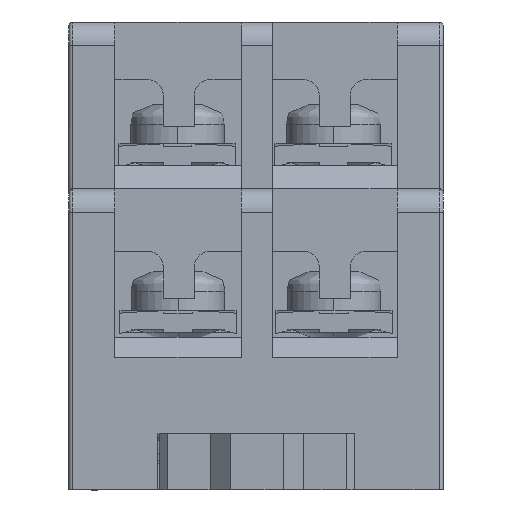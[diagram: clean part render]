
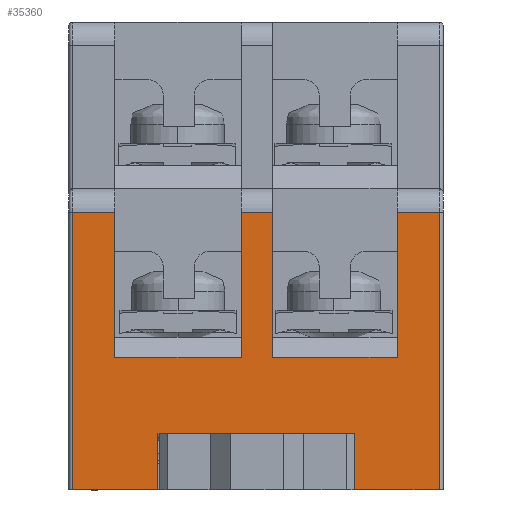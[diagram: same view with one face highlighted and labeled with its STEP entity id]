
A CAD part, left-side view. The second image highlights one B-rep face of the part: STEP entity #35360.
In plain terms, the highlighted planar face has unit normal (-1, 0, 0).
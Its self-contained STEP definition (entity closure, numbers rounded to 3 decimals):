
#369 = CARTESIAN_POINT ( 'NONE',  ( -36.43, -5.933, 17.8 ) ) ;
#390 = LINE ( 'NONE', #4026, #43578 ) ;
#490 = ORIENTED_EDGE ( 'NONE', *, *, #15266, .F. ) ;
#1147 = ORIENTED_EDGE ( 'NONE', *, *, #23819, .F. ) ;
#1600 = VERTEX_POINT ( 'NONE', #45265 ) ;
#2007 = DIRECTION ( 'NONE',  ( 0., 0., -1. ) ) ;
#2075 = LINE ( 'NONE', #50649, #26235 ) ;
#2350 = ORIENTED_EDGE ( 'NONE', *, *, #31432, .F. ) ;
#2529 = LINE ( 'NONE', #25438, #22895 ) ;
#2846 = CARTESIAN_POINT ( 'NONE',  ( -36.43, -8.536, 3.6 ) ) ;
#3363 = ORIENTED_EDGE ( 'NONE', *, *, #26145, .T. ) ;
#3754 = EDGE_CURVE ( 'NONE', #10985, #30263, #30832, .T. ) ;
#4026 = CARTESIAN_POINT ( 'NONE',  ( -36.43, 4.167, 19.3 ) ) ;
#4103 = CARTESIAN_POINT ( 'NONE',  ( -36.43, 5.617, 0. ) ) ;
#4442 = EDGE_CURVE ( 'NONE', #47688, #1600, #18656, .T. ) ;
#4549 = CARTESIAN_POINT ( 'NONE',  ( -36.43, 1.417, 3.6 ) ) ;
#4649 = PLANE ( 'NONE',  #45435 ) ;
#4835 = ORIENTED_EDGE ( 'NONE', *, *, #5230, .T. ) ;
#5230 = EDGE_CURVE ( 'NONE', #47688, #35331, #12012, .T. ) ;
#6273 = DIRECTION ( 'NONE',  ( 0., -1., 0. ) ) ;
#7305 = CARTESIAN_POINT ( 'NONE',  ( -36.43, 4.167, 8.5 ) ) ;
#7963 = CARTESIAN_POINT ( 'NONE',  ( -36.43, 1.417, 3.6 ) ) ;
#8036 = ORIENTED_EDGE ( 'NONE', *, *, #46110, .T. ) ;
#8353 = VERTEX_POINT ( 'NONE', #13811 ) ;
#8585 = ORIENTED_EDGE ( 'NONE', *, *, #27939, .T. ) ;
#8656 = VECTOR ( 'NONE', #33804, 1000. ) ;
#8686 = ORIENTED_EDGE ( 'NONE', *, *, #4442, .F. ) ;
#9629 = LINE ( 'NONE', #16499, #28738 ) ;
#9929 = CARTESIAN_POINT ( 'NONE',  ( -36.43, -3.933, 10.1 ) ) ;
#10274 = DIRECTION ( 'NONE',  ( 0., 0., 1. ) ) ;
#10335 = CARTESIAN_POINT ( 'NONE',  ( -36.43, -16.633, 0. ) ) ;
#10463 = VECTOR ( 'NONE', #19745, 1000. ) ;
#10665 = CARTESIAN_POINT ( 'NONE',  ( -36.43, 1.417, 3.6 ) ) ;
#10674 = VECTOR ( 'NONE', #46357, 1000. ) ;
#10883 = DIRECTION ( 'NONE',  ( 0., 1., 0. ) ) ;
#10985 = VERTEX_POINT ( 'NONE', #16968 ) ;
#12003 = VERTEX_POINT ( 'NONE', #15959 ) ;
#12012 = LINE ( 'NONE', #12335, #22887 ) ;
#12335 = CARTESIAN_POINT ( 'NONE',  ( -36.43, 5.617, 3.6 ) ) ;
#12729 = LINE ( 'NONE', #7963, #52133 ) ;
#13801 = VERTEX_POINT ( 'NONE', #369 ) ;
#13811 = CARTESIAN_POINT ( 'NONE',  ( -36.43, 6.867, 0. ) ) ;
#14010 = DIRECTION ( 'NONE',  ( 0., 0., 1. ) ) ;
#14168 = EDGE_CURVE ( 'NONE', #1600, #44680, #38548, .T. ) ;
#14209 = VERTEX_POINT ( 'NONE', #24126 ) ;
#14235 = CARTESIAN_POINT ( 'NONE',  ( -36.43, -5.933, 8.5 ) ) ;
#15266 = EDGE_CURVE ( 'NONE', #10985, #35331, #47397, .T. ) ;
#15299 = ORIENTED_EDGE ( 'NONE', *, *, #19193, .F. ) ;
#15378 = ORIENTED_EDGE ( 'NONE', *, *, #46896, .F. ) ;
#15959 = CARTESIAN_POINT ( 'NONE',  ( -36.43, 6.867, 17.8 ) ) ;
#15988 = VECTOR ( 'NONE', #17022, 1000. ) ;
#16058 = VECTOR ( 'NONE', #43169, 1000. ) ;
#16121 = ORIENTED_EDGE ( 'NONE', *, *, #41368, .T. ) ;
#16499 = CARTESIAN_POINT ( 'NONE',  ( -36.43, -16.633, 17.8 ) ) ;
#16890 = DIRECTION ( 'NONE',  ( 1., 0., 0. ) ) ;
#16968 = CARTESIAN_POINT ( 'NONE',  ( -36.43, -11.186, 0. ) ) ;
#17022 = DIRECTION ( 'NONE',  ( 0., 1., 0. ) ) ;
#18656 = LINE ( 'NONE', #10665, #16058 ) ;
#18701 = VECTOR ( 'NONE', #48688, 1000. ) ;
#18999 = CARTESIAN_POINT ( 'NONE',  ( -36.43, 1.314, 3.6 ) ) ;
#19079 = VECTOR ( 'NONE', #40866, 1000. ) ;
#19193 = EDGE_CURVE ( 'NONE', #44680, #39845, #12729, .T. ) ;
#19664 = CARTESIAN_POINT ( 'NONE',  ( -36.43, 1.417, 3.6 ) ) ;
#19745 = DIRECTION ( 'NONE',  ( 0., 1., 0. ) ) ;
#19824 = ORIENTED_EDGE ( 'NONE', *, *, #39294, .T. ) ;
#19961 = EDGE_CURVE ( 'NONE', #36032, #30216, #2529, .T. ) ;
#20001 = LINE ( 'NONE', #48132, #10463 ) ;
#20571 = VERTEX_POINT ( 'NONE', #45072 ) ;
#20633 = DIRECTION ( 'NONE',  ( 0., 0., 1. ) ) ;
#21311 = VECTOR ( 'NONE', #36068, 1000. ) ;
#22806 = FACE_OUTER_BOUND ( 'NONE', #45276, .T. ) ;
#22887 = VECTOR ( 'NONE', #36712, 1000. ) ;
#22895 = VECTOR ( 'NONE', #29542, 1000. ) ;
#23337 = VECTOR ( 'NONE', #10883, 1000. ) ;
#23819 = EDGE_CURVE ( 'NONE', #36032, #14209, #44359, .T. ) ;
#23821 = CARTESIAN_POINT ( 'NONE',  ( -36.43, 1.417, 0. ) ) ;
#24126 = CARTESIAN_POINT ( 'NONE',  ( -36.43, -13.933, 17.8 ) ) ;
#25073 = CARTESIAN_POINT ( 'NONE',  ( -36.43, 1.417, 0. ) ) ;
#25438 = CARTESIAN_POINT ( 'NONE',  ( -36.43, 5.617, 8.5 ) ) ;
#26145 = EDGE_CURVE ( 'NONE', #42868, #51009, #20001, .T. ) ;
#26235 = VECTOR ( 'NONE', #2007, 1000. ) ;
#26378 = CARTESIAN_POINT ( 'NONE',  ( -36.43, 5.617, 0. ) ) ;
#27364 = LINE ( 'NONE', #44954, #19079 ) ;
#27866 = DIRECTION ( 'NONE',  ( 0., 1., 0. ) ) ;
#27939 = EDGE_CURVE ( 'NONE', #13801, #43905, #37668, .T. ) ;
#28738 = VECTOR ( 'NONE', #20633, 1000. ) ;
#29542 = DIRECTION ( 'NONE',  ( 0., 1., 0. ) ) ;
#29744 = CARTESIAN_POINT ( 'NONE',  ( -36.43, 5.617, 17.8 ) ) ;
#29757 = CARTESIAN_POINT ( 'NONE',  ( -36.43, -3.933, 17.8 ) ) ;
#30216 = VERTEX_POINT ( 'NONE', #14235 ) ;
#30263 = VERTEX_POINT ( 'NONE', #10335 ) ;
#30832 = LINE ( 'NONE', #4103, #18701 ) ;
#31198 = ORIENTED_EDGE ( 'NONE', *, *, #36642, .F. ) ;
#31432 = EDGE_CURVE ( 'NONE', #13801, #30216, #2075, .T. ) ;
#32104 = LINE ( 'NONE', #23821, #21311 ) ;
#33804 = DIRECTION ( 'NONE',  ( 0., 1., 0. ) ) ;
#34307 = CARTESIAN_POINT ( 'NONE',  ( -36.43, -13.933, 10.1 ) ) ;
#35331 = VERTEX_POINT ( 'NONE', #41079 ) ;
#35360 = ADVANCED_FACE ( 'NONE', ( #22806 ), #4649, .F. ) ;
#36032 = VERTEX_POINT ( 'NONE', #50853 ) ;
#36068 = DIRECTION ( 'NONE',  ( 0., 0., -1. ) ) ;
#36331 = EDGE_CURVE ( 'NONE', #20571, #12003, #50638, .T. ) ;
#36612 = VECTOR ( 'NONE', #10274, 1000. ) ;
#36642 = EDGE_CURVE ( 'NONE', #39845, #41456, #32104, .T. ) ;
#36712 = DIRECTION ( 'NONE',  ( 0., -1., 0. ) ) ;
#37057 = VECTOR ( 'NONE', #14010, 1000. ) ;
#37325 = CARTESIAN_POINT ( 'NONE',  ( -36.43, 5.617, 17.8 ) ) ;
#37668 = LINE ( 'NONE', #37325, #15988 ) ;
#38356 = EDGE_CURVE ( 'NONE', #42868, #43905, #47832, .T. ) ;
#38548 = LINE ( 'NONE', #19664, #39797 ) ;
#38553 = CARTESIAN_POINT ( 'NONE',  ( -36.43, -11.186, 30. ) ) ;
#38843 = ORIENTED_EDGE ( 'NONE', *, *, #36331, .T. ) ;
#38999 = DIRECTION ( 'NONE',  ( 0., 0., -1. ) ) ;
#39250 = CARTESIAN_POINT ( 'NONE',  ( -36.43, -3.933, 8.5 ) ) ;
#39294 = EDGE_CURVE ( 'NONE', #30263, #47146, #9629, .T. ) ;
#39333 = CARTESIAN_POINT ( 'NONE',  ( -36.43, 5.617, 17.8 ) ) ;
#39797 = VECTOR ( 'NONE', #27866, 1000. ) ;
#39845 = VERTEX_POINT ( 'NONE', #4549 ) ;
#40349 = CARTESIAN_POINT ( 'NONE',  ( -36.43, -16.633, 17.8 ) ) ;
#40465 = DIRECTION ( 'NONE',  ( 0., 1., 0. ) ) ;
#40866 = DIRECTION ( 'NONE',  ( 0., 0., -1. ) ) ;
#41079 = CARTESIAN_POINT ( 'NONE',  ( -36.43, -11.186, 3.6 ) ) ;
#41258 = CARTESIAN_POINT ( 'NONE',  ( -36.43, 5.617, 30. ) ) ;
#41368 = EDGE_CURVE ( 'NONE', #12003, #8353, #27364, .T. ) ;
#41456 = VERTEX_POINT ( 'NONE', #25073 ) ;
#42868 = VERTEX_POINT ( 'NONE', #39250 ) ;
#43169 = DIRECTION ( 'NONE',  ( 0., 1., 0. ) ) ;
#43190 = ORIENTED_EDGE ( 'NONE', *, *, #38356, .F. ) ;
#43578 = VECTOR ( 'NONE', #38999, 1000. ) ;
#43905 = VERTEX_POINT ( 'NONE', #29757 ) ;
#44112 = ORIENTED_EDGE ( 'NONE', *, *, #46202, .T. ) ;
#44359 = LINE ( 'NONE', #34307, #10674 ) ;
#44680 = VERTEX_POINT ( 'NONE', #18999 ) ;
#44954 = CARTESIAN_POINT ( 'NONE',  ( -36.43, 6.867, 0. ) ) ;
#45072 = CARTESIAN_POINT ( 'NONE',  ( -36.43, 4.167, 17.8 ) ) ;
#45167 = ORIENTED_EDGE ( 'NONE', *, *, #3754, .T. ) ;
#45265 = CARTESIAN_POINT ( 'NONE',  ( -36.43, -1.336, 3.6 ) ) ;
#45276 = EDGE_LOOP ( 'NONE', ( #490, #45167, #19824, #44112, #1147, #48720, #2350, #8585, #43190, #3363, #15378, #38843, #16121, #8036, #31198, #15299, #50441, #8686, #4835 ) ) ;
#45344 = DIRECTION ( 'NONE',  ( 0., 1., 0. ) ) ;
#45435 = AXIS2_PLACEMENT_3D ( 'NONE', #41258, #16890, #45344 ) ;
#46110 = EDGE_CURVE ( 'NONE', #8353, #41456, #50010, .T. ) ;
#46179 = LINE ( 'NONE', #39333, #23337 ) ;
#46202 = EDGE_CURVE ( 'NONE', #47146, #14209, #46179, .T. ) ;
#46357 = DIRECTION ( 'NONE',  ( 0., 0., 1. ) ) ;
#46896 = EDGE_CURVE ( 'NONE', #20571, #51009, #390, .T. ) ;
#47146 = VERTEX_POINT ( 'NONE', #40349 ) ;
#47397 = LINE ( 'NONE', #38553, #36612 ) ;
#47688 = VERTEX_POINT ( 'NONE', #2846 ) ;
#47832 = LINE ( 'NONE', #9929, #37057 ) ;
#48132 = CARTESIAN_POINT ( 'NONE',  ( -36.43, 5.617, 8.5 ) ) ;
#48688 = DIRECTION ( 'NONE',  ( 0., -1., 0. ) ) ;
#48705 = VECTOR ( 'NONE', #6273, 1000. ) ;
#48720 = ORIENTED_EDGE ( 'NONE', *, *, #19961, .T. ) ;
#50010 = LINE ( 'NONE', #26378, #48705 ) ;
#50441 = ORIENTED_EDGE ( 'NONE', *, *, #14168, .F. ) ;
#50638 = LINE ( 'NONE', #29744, #8656 ) ;
#50649 = CARTESIAN_POINT ( 'NONE',  ( -36.43, -5.933, 10.1 ) ) ;
#50853 = CARTESIAN_POINT ( 'NONE',  ( -36.43, -13.933, 8.5 ) ) ;
#51009 = VERTEX_POINT ( 'NONE', #7305 ) ;
#52133 = VECTOR ( 'NONE', #40465, 1000. ) ;
